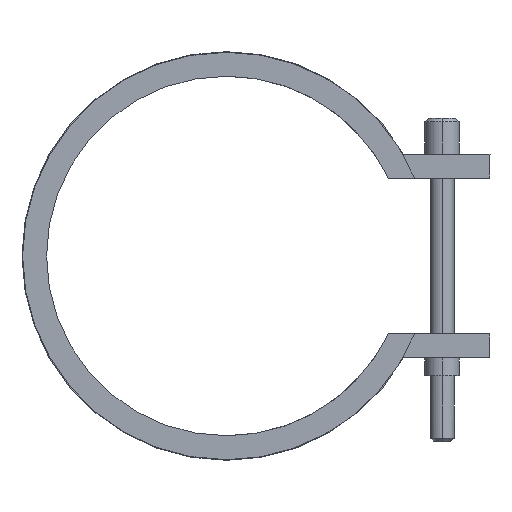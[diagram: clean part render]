
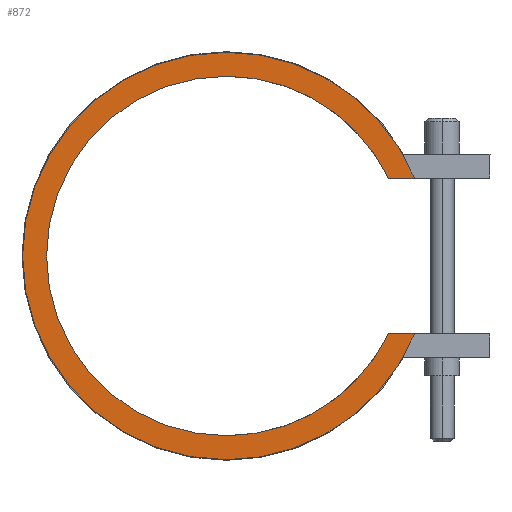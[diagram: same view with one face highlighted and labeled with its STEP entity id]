
A CAD part, left-side view. The second image highlights one B-rep face of the part: STEP entity #872.
In plain terms, the highlighted planar face has unit normal (-1, 0, 0).
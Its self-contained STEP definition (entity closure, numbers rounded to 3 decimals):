
#410=CARTESIAN_POINT('Vertex',(-30.,-27.037,-13.)) ;
#413=CARTESIAN_POINT('Line Origine',(-30.,-29.227,-13.)) ;
#417=CARTESIAN_POINT('Vertex',(-30.,-31.417,-13.)) ;
#463=CARTESIAN_POINT('Vertex',(-30.,0.,-34.)) ;
#466=CARTESIAN_POINT('Axis2P3D Location',(-30.,0.,0.)) ;
#487=CARTESIAN_POINT('Vertex',(-30.,0.,34.)) ;
#490=CARTESIAN_POINT('Axis2P3D Location',(-30.,0.,0.)) ;
#502=CARTESIAN_POINT('Axis2P3D Location',(-30.,0.,0.)) ;
#506=CARTESIAN_POINT('Vertex',(-30.,-31.417,13.)) ;
#526=CARTESIAN_POINT('Line Origine',(-30.,-29.227,13.)) ;
#530=CARTESIAN_POINT('Vertex',(-30.,-27.037,13.)) ;
#818=CARTESIAN_POINT('Axis2P3D Location',(-30.,0.,0.)) ;
#822=CARTESIAN_POINT('Vertex',(-30.,0.,-30.)) ;
#845=CARTESIAN_POINT('Axis2P3D Location',(-30.,0.,0.)) ;
#850=CARTESIAN_POINT('Axis2P3D Location',(-30.,0.,0.)) ;
#854=CARTESIAN_POINT('Vertex',(-30.,0.,30.)) ;
#857=CARTESIAN_POINT('Axis2P3D Location',(-30.,0.,0.)) ;
#414=DIRECTION('Vector Direction',(0.,1.,0.)) ;
#467=DIRECTION('Axis2P3D Direction',(1.,0.,-0.)) ;
#491=DIRECTION('Axis2P3D Direction',(1.,0.,-0.)) ;
#503=DIRECTION('Axis2P3D Direction',(1.,0.,-0.)) ;
#527=DIRECTION('Vector Direction',(0.,-1.,0.)) ;
#819=DIRECTION('Axis2P3D Direction',(1.,0.,-0.)) ;
#846=DIRECTION('Axis2P3D Direction',(1.,0.,0.)) ;
#847=DIRECTION('Axis2P3D XDirection',(0.,0.,-1.)) ;
#851=DIRECTION('Axis2P3D Direction',(1.,0.,0.)) ;
#858=DIRECTION('Axis2P3D Direction',(1.,0.,0.)) ;
#468=AXIS2_PLACEMENT_3D('Circle Axis2P3D',#466,#467,$) ;
#492=AXIS2_PLACEMENT_3D('Circle Axis2P3D',#490,#491,$) ;
#504=AXIS2_PLACEMENT_3D('Circle Axis2P3D',#502,#503,$) ;
#820=AXIS2_PLACEMENT_3D('Circle Axis2P3D',#818,#819,$) ;
#848=AXIS2_PLACEMENT_3D('Plane Axis2P3D',#845,#846,#847) ;
#852=AXIS2_PLACEMENT_3D('Circle Axis2P3D',#850,#851,$) ;
#859=AXIS2_PLACEMENT_3D('Circle Axis2P3D',#857,#858,$) ;
#863=ORIENTED_EDGE('',*,*,#419,.T.) ;
#864=ORIENTED_EDGE('',*,*,#824,.T.) ;
#865=ORIENTED_EDGE('',*,*,#856,.T.) ;
#866=ORIENTED_EDGE('',*,*,#861,.T.) ;
#867=ORIENTED_EDGE('',*,*,#532,.T.) ;
#868=ORIENTED_EDGE('',*,*,#508,.F.) ;
#869=ORIENTED_EDGE('',*,*,#494,.F.) ;
#870=ORIENTED_EDGE('',*,*,#470,.F.) ;
#415=VECTOR('Line Direction',#414,1.) ;
#528=VECTOR('Line Direction',#527,1.) ;
#872=ADVANCED_FACE('14060060',(#871),#849,.F.) ;
#469=CIRCLE('generated circle',#468,34.) ;
#493=CIRCLE('generated circle',#492,34.) ;
#505=CIRCLE('generated circle',#504,34.) ;
#821=CIRCLE('generated circle',#820,30.) ;
#853=CIRCLE('generated circle',#852,30.) ;
#860=CIRCLE('generated circle',#859,30.) ;
#419=EDGE_CURVE('',#418,#411,#416,.T.) ;
#470=EDGE_CURVE('',#418,#464,#469,.T.) ;
#494=EDGE_CURVE('',#464,#488,#493,.T.) ;
#508=EDGE_CURVE('',#488,#507,#505,.T.) ;
#532=EDGE_CURVE('',#531,#507,#529,.T.) ;
#824=EDGE_CURVE('',#411,#823,#821,.T.) ;
#856=EDGE_CURVE('',#823,#855,#853,.T.) ;
#861=EDGE_CURVE('',#855,#531,#860,.T.) ;
#862=EDGE_LOOP('',(#863,#864,#865,#866,#867,#868,#869,#870)) ;
#871=FACE_OUTER_BOUND('',#862,.T.) ;
#416=LINE('Line',#413,#415) ;
#529=LINE('Line',#526,#528) ;
#849=PLANE('Plane',#848) ;
#411=VERTEX_POINT('',#410) ;
#418=VERTEX_POINT('',#417) ;
#464=VERTEX_POINT('',#463) ;
#488=VERTEX_POINT('',#487) ;
#507=VERTEX_POINT('',#506) ;
#531=VERTEX_POINT('',#530) ;
#823=VERTEX_POINT('',#822) ;
#855=VERTEX_POINT('',#854) ;
